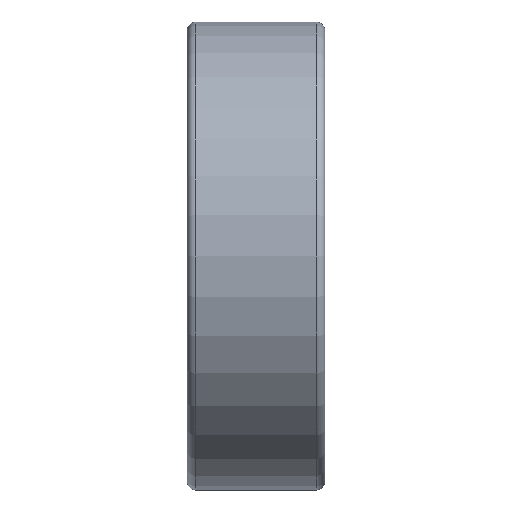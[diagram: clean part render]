
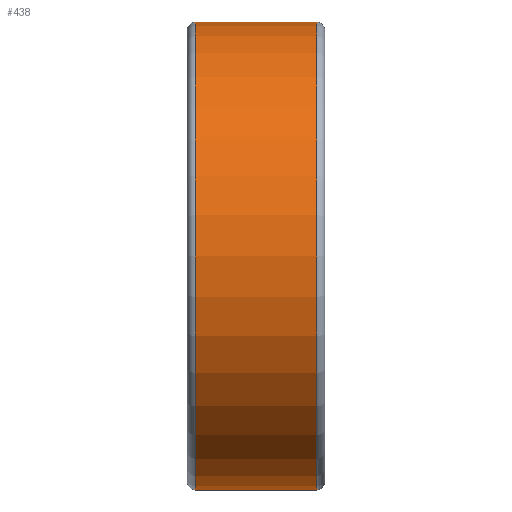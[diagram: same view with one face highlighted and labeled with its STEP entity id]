
A CAD part, front view. The second image highlights one B-rep face of the part: STEP entity #438.
In plain terms, the highlighted cylindrical face has radius 8.5 mm (diameter 17 mm), a full revolution.
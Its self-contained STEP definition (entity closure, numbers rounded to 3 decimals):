
#146=CYLINDRICAL_SURFACE('',#666,8.5);
#218=EDGE_LOOP('',(#302));
#219=EDGE_LOOP('',(#303));
#302=ORIENTED_EDGE('',*,*,#352,.F.);
#303=ORIENTED_EDGE('',*,*,#350,.T.);
#350=EDGE_CURVE('',#607,#607,#370,.T.);
#352=EDGE_CURVE('',#609,#609,#372,.T.);
#370=CIRCLE('',#662,8.5);
#372=CIRCLE('',#665,8.5);
#438=ADVANCED_FACE('',(#537,#538),#146,.T.);
#537=FACE_BOUND('',#218,.T.);
#538=FACE_BOUND('',#219,.T.);
#607=VERTEX_POINT('',#2170);
#609=VERTEX_POINT('',#2175);
#662=AXIS2_PLACEMENT_3D('',#2169,#769,#770);
#665=AXIS2_PLACEMENT_3D('',#2174,#775,#776);
#666=AXIS2_PLACEMENT_3D('',#2176,#777,#778);
#769=DIRECTION('',(1.,0.,0.));
#770=DIRECTION('',(0.,0.,-1.));
#775=DIRECTION('',(1.,0.,0.));
#776=DIRECTION('',(0.,0.,-1.));
#777=DIRECTION('',(1.,0.,0.));
#778=DIRECTION('',(0.,0.,-1.));
#2169=CARTESIAN_POINT('',(-2.2,0.,0.));
#2170=CARTESIAN_POINT('',(-2.2,0.,-8.5));
#2174=CARTESIAN_POINT('',(2.2,0.,0.));
#2175=CARTESIAN_POINT('',(2.2,0.,-8.5));
#2176=CARTESIAN_POINT('',(-2.2,0.,0.));
